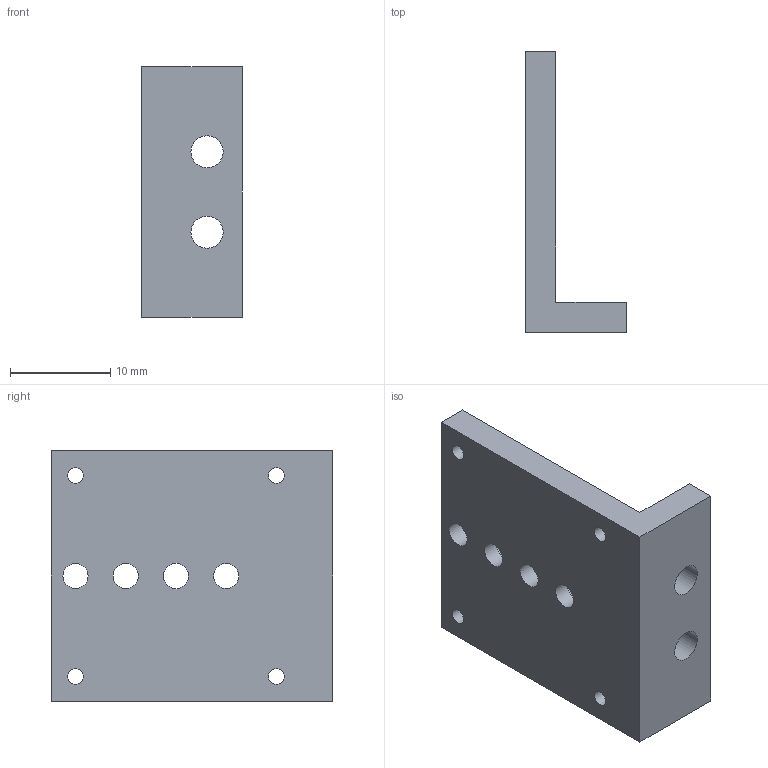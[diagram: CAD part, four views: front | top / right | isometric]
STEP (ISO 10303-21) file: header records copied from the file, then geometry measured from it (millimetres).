
FILE_DESCRIPTION(/* description */ (''),/* implementation_level */ '2;1');
FILE_NAME(/* name */ 'U:\KONSTRUKTORIAI\DOKUMENTACIJA\2\2AB\2AB111-128\breziniai\step\2AB111-128.stp',/* time_stamp */ '2016-11-15T14:24:23+02:00',/* author */ ('dsgn33'),/* organization */ (''),/* preprocessor_version */ 'ST-DEVELOPER v15.2',/* originating_system */ 'Autodesk Inventor 2014',/* authorisation */ '');
FILE_SCHEMA (('AUTOMOTIVE_DESIGN { 1 0 10303 214 3 1 1 }'));
Length unit declared in the file: millimetre
Products named in the file (1): 2AB111-128
Bounding box: 10 x 28 x 25 mm (x, y, z)
Volume: 2473.3 mm3; surface area: 2250 mm2
Topology: 1 solids, 1 shells, 22 faces, 62 edges, 44 vertices
Faces by surface type: cylinder 12, plane 10
Full cylindrical faces by diameter (mm): 1.567 x4, 2.5 x4, 3.2 x2, 4 x2
Entity records: 663 total; most frequent: DIRECTION 112, CARTESIAN_POINT 101, ORIENTED_EDGE 84, EDGE_LOOP 56, AXIS2_PLACEMENT_3D 47, EDGE_CURVE 42, FACE_BOUND 38, VERTEX_POINT 36
